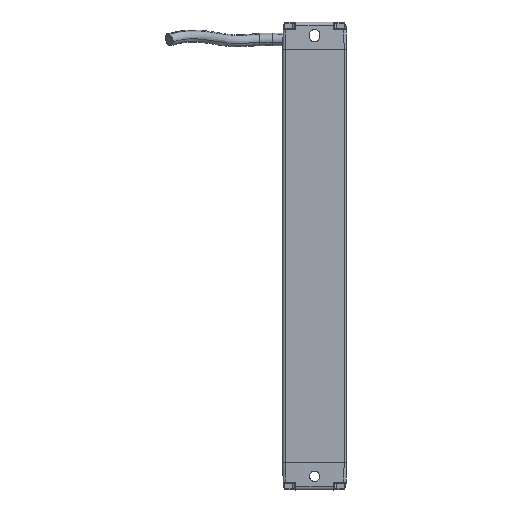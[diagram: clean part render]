
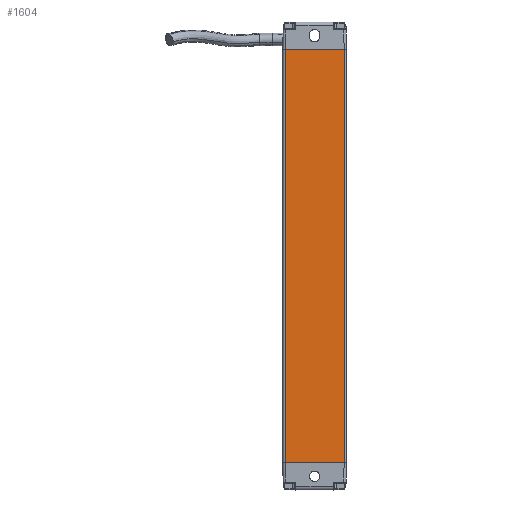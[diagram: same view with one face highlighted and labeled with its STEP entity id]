
A CAD part, front view. The second image highlights one B-rep face of the part: STEP entity #1604.
In plain terms, the highlighted planar face has unit normal (-0.001, -1, 0).
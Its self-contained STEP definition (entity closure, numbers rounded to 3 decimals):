
#1604=ADVANCED_FACE('',(#2720),#2349,.T.);
#2349=PLANE('',#14604);
#2720=FACE_OUTER_BOUND('',#3441,.T.);
#3441=EDGE_LOOP('',(#4477,#4478,#4479,#4480));
#4477=ORIENTED_EDGE('',*,*,#10104,.T.);
#4478=ORIENTED_EDGE('',*,*,#10057,.F.);
#4479=ORIENTED_EDGE('',*,*,#10102,.T.);
#4480=ORIENTED_EDGE('',*,*,#10105,.T.);
#8601=VERTEX_POINT('',#19848);
#8602=VERTEX_POINT('',#19850);
#8639=VERTEX_POINT('',#19939);
#8640=VERTEX_POINT('',#19943);
#10057=EDGE_CURVE('',#8601,#8602,#12174,.T.);
#10102=EDGE_CURVE('',#8601,#8639,#12205,.T.);
#10104=EDGE_CURVE('',#8640,#8602,#12206,.T.);
#10105=EDGE_CURVE('',#8639,#8640,#12207,.T.);
#12174=LINE('',#19849,#13389);
#12205=LINE('',#19938,#13420);
#12206=LINE('',#19942,#13421);
#12207=LINE('',#19944,#13422);
#13389=VECTOR('',#16033,1.);
#13420=VECTOR('',#16106,1.);
#13421=VECTOR('',#16111,1.);
#13422=VECTOR('',#16112,1.);
#14604=AXIS2_PLACEMENT_3D('',#19945,#16113,#16114);
#16033=DIRECTION('',(1.,-0.001,0.));
#16106=DIRECTION('',(0.,0.,-1.));
#16111=DIRECTION('',(0.,0.,1.));
#16112=DIRECTION('',(1.,-0.001,0.));
#16113=DIRECTION('',(-0.001,-1.,0.));
#16114=DIRECTION('',(-1.,0.001,0.));
#19848=CARTESIAN_POINT('',(53.048,-142.376,380.376));
#19849=CARTESIAN_POINT('',(79.028,-142.395,380.376));
#19850=CARTESIAN_POINT('',(79.028,-142.395,380.376));
#19938=CARTESIAN_POINT('',(53.048,-142.376,543.376));
#19939=CARTESIAN_POINT('',(53.048,-142.376,198.376));
#19942=CARTESIAN_POINT('',(79.028,-142.395,198.376));
#19943=CARTESIAN_POINT('',(79.028,-142.395,198.376));
#19944=CARTESIAN_POINT('',(53.048,-142.376,198.376));
#19945=CARTESIAN_POINT('',(79.028,-142.395,543.376));
